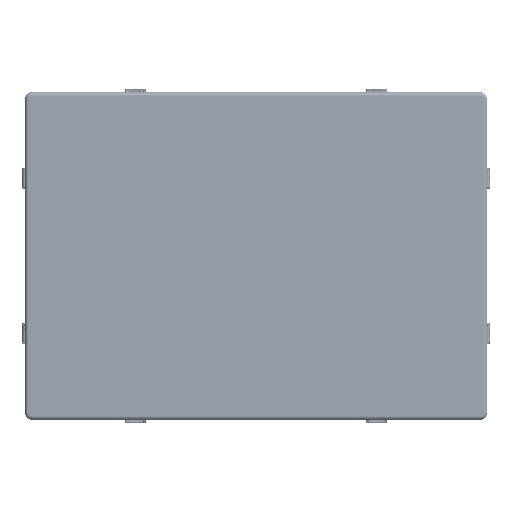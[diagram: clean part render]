
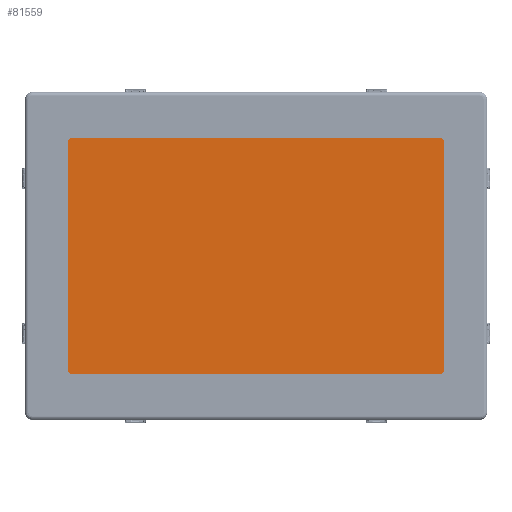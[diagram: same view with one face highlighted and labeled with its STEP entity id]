
A CAD part, front view. The second image highlights one B-rep face of the part: STEP entity #81559.
In plain terms, the highlighted planar face has unit normal (0, -1, 0) as drawn and (0, 1, 0) by its records, which use the part's own axes.
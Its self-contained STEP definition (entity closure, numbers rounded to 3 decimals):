
#10656=FACE_OUTER_BOUND('',#14841,.T.);
#14841=EDGE_LOOP('',(#58509,#58510,#58511,#58512));
#22681=LINE('',#124505,#28410);
#22714=LINE('',#124590,#28443);
#22715=LINE('',#124593,#28444);
#22716=LINE('',#124594,#28445);
#28410=VECTOR('',#99724,228.5);
#28443=VECTOR('',#99807,148.5);
#28444=VECTOR('',#99810,148.5);
#28445=VECTOR('',#99811,228.5);
#38916=VERTEX_POINT('',#124502);
#38917=VERTEX_POINT('',#124504);
#38944=VERTEX_POINT('',#124588);
#38945=VERTEX_POINT('',#124592);
#46584=EDGE_CURVE('',#38917,#38916,#22681,.T.);
#46627=EDGE_CURVE('',#38916,#38944,#22714,.T.);
#46628=EDGE_CURVE('',#38945,#38917,#22715,.T.);
#46629=EDGE_CURVE('',#38944,#38945,#22716,.T.);
#58509=ORIENTED_EDGE('',*,*,#46628,.T.);
#58510=ORIENTED_EDGE('',*,*,#46584,.T.);
#58511=ORIENTED_EDGE('',*,*,#46627,.T.);
#58512=ORIENTED_EDGE('',*,*,#46629,.T.);
#79911=PLANE('',#89396);
#81559=ADVANCED_FACE('',(#10656),#79911,.T.);
#89396=AXIS2_PLACEMENT_3D('',#124591,#99808,#99809);
#99724=DIRECTION('',(1.,0.,0.));
#99807=DIRECTION('',(0.,0.,-1.));
#99808=DIRECTION('center_axis',(0.,1.,0.));
#99809=DIRECTION('ref_axis',(1.,0.,0.));
#99810=DIRECTION('',(0.,0.,1.));
#99811=DIRECTION('',(-1.,0.,0.));
#124502=CARTESIAN_POINT('',(115.75,1.9,76.25));
#124504=CARTESIAN_POINT('',(-112.75,1.9,76.25));
#124505=CARTESIAN_POINT('',(-112.75,1.9,76.25));
#124588=CARTESIAN_POINT('',(115.75,1.9,-72.25));
#124590=CARTESIAN_POINT('',(115.75,1.9,76.25));
#124591=CARTESIAN_POINT('Origin',(0.,1.9,0.));
#124592=CARTESIAN_POINT('',(-112.75,1.9,-72.25));
#124593=CARTESIAN_POINT('',(-112.75,1.9,-72.25));
#124594=CARTESIAN_POINT('',(115.75,1.9,-72.25));
